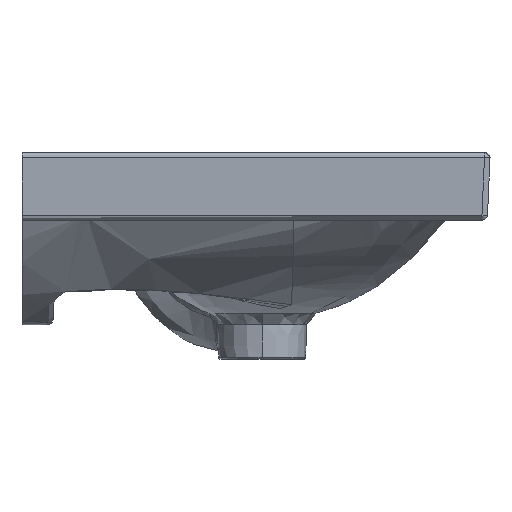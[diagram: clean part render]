
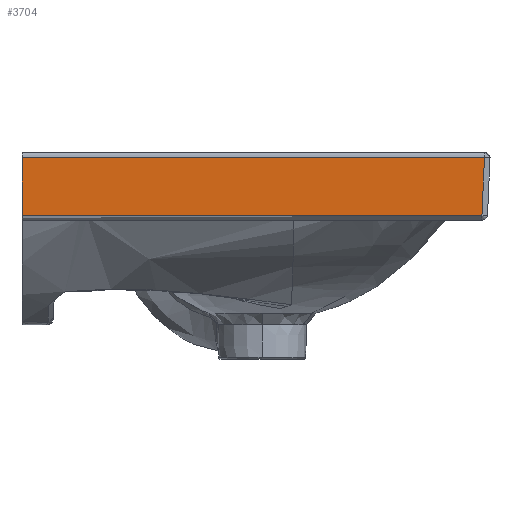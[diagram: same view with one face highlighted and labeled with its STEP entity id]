
A CAD part, left-side view. The second image highlights one B-rep face of the part: STEP entity #3704.
In plain terms, the highlighted planar face has unit normal (-1, 0, -0.03).
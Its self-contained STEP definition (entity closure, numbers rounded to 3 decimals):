
#45=PLANE('',#3970);
#96=LINE('',#5804,#236);
#113=LINE('',#7092,#253);
#134=LINE('',#7819,#274);
#135=LINE('',#7820,#275);
#236=VECTOR('',#4192,47.021);
#253=VECTOR('',#4255,373.493);
#274=VECTOR('',#4310,47.066);
#275=VECTOR('',#4311,375.545);
#558=FACE_OUTER_BOUND('',#791,.T.);
#791=EDGE_LOOP('',(#2488,#2489,#2490,#2491));
#1355=VERTEX_POINT('',#5801);
#1356=VERTEX_POINT('',#5803);
#1400=VERTEX_POINT('',#7011);
#1434=VERTEX_POINT('',#7818);
#1702=EDGE_CURVE('',#1355,#1356,#96,.T.);
#1765=EDGE_CURVE('',#1355,#1400,#113,.T.);
#1818=EDGE_CURVE('',#1400,#1434,#134,.T.);
#1819=EDGE_CURVE('',#1356,#1434,#135,.T.);
#2488=ORIENTED_EDGE('',*,*,#1765,.T.);
#2489=ORIENTED_EDGE('',*,*,#1818,.T.);
#2490=ORIENTED_EDGE('',*,*,#1819,.F.);
#2491=ORIENTED_EDGE('',*,*,#1702,.F.);
#3704=ADVANCED_FACE('',(#558),#45,.F.);
#3970=AXIS2_PLACEMENT_3D('',#7817,#4308,#4309);
#4192=DIRECTION('',(-0.03,0.,1.));
#4255=DIRECTION('',(0.,-1.,0.));
#4308=DIRECTION('center_axis',(1.,0.,
0.03));
#4309=DIRECTION('ref_axis',(0.,1.,0.));
#4310=DIRECTION('',(-0.03,-0.044,0.999));
#4311=DIRECTION('',(0.,-1.,0.));
#5801=CARTESIAN_POINT('',(-223.616,0.,798.88));
#5803=CARTESIAN_POINT('',(-225.028,0.,845.88));
#5804=CARTESIAN_POINT('',(-223.584,0.,797.841));
#7011=CARTESIAN_POINT('',(-223.616,-373.493,798.88));
#7092=CARTESIAN_POINT('',(-223.616,-186.747,798.88));
#7817=CARTESIAN_POINT('Origin',(-224.322,-187.773,822.38));
#7818=CARTESIAN_POINT('',(-225.029,-375.545,845.88));
#7819=CARTESIAN_POINT('',(-224.322,-374.519,822.38));
#7820=CARTESIAN_POINT('',(-225.028,-187.773,845.88));
